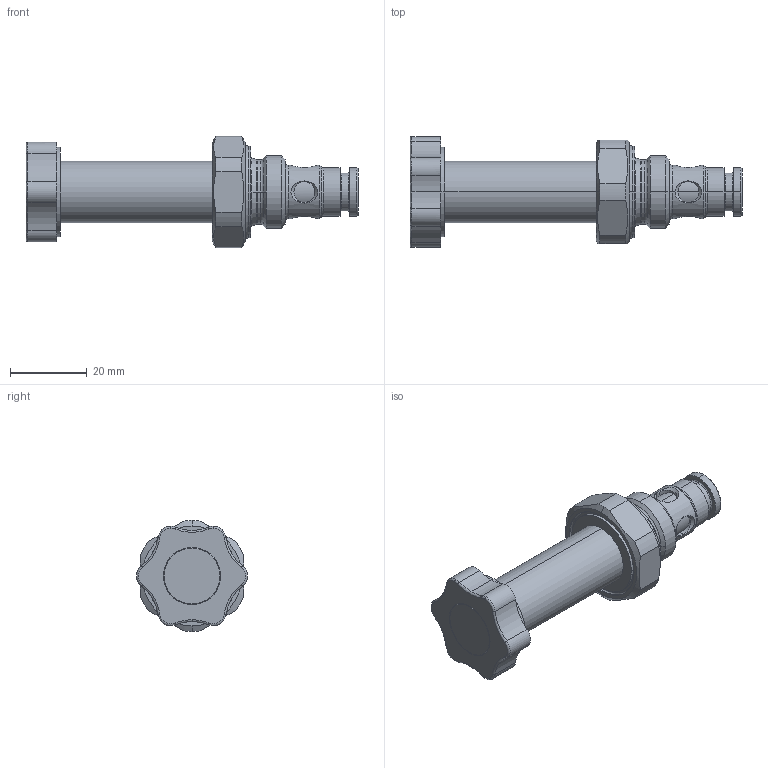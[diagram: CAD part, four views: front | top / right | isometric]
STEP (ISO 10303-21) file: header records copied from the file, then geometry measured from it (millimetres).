
FILE_DESCRIPTION (( 'STEP AP214' ), '1' );
FILE_NAME ('SVSPU08.STEP', '2016-02-05T07:00:42', ( '' ), ( '' ), 'SwSTEP 2.0', 'SolidWorks 2014', '' );
FILE_SCHEMA (( 'AUTOMOTIVE_DESIGN' ));
Length unit declared in the file: millimetre
Products named in the file (2): SVSPU08
Bounding box: 86.7 x 28.98 x 29 mm (x, y, z)
Volume: 23204.9 mm3; surface area: 7167 mm2
Topology: 1 solids, 1 shells, 145 faces, 332 edges, 204 vertices
Faces by surface type: cylinder 63, torus 33, cone 28, plane 21
Entity records: 6238 total; most frequent: CARTESIAN_POINT 1289, DIRECTION 795, ORIENTED_EDGE 664, AXIS2_PLACEMENT_3D 350, EDGE_CURVE 332, VERTEX_POINT 204, CIRCLE 203, EDGE_LOOP 160
